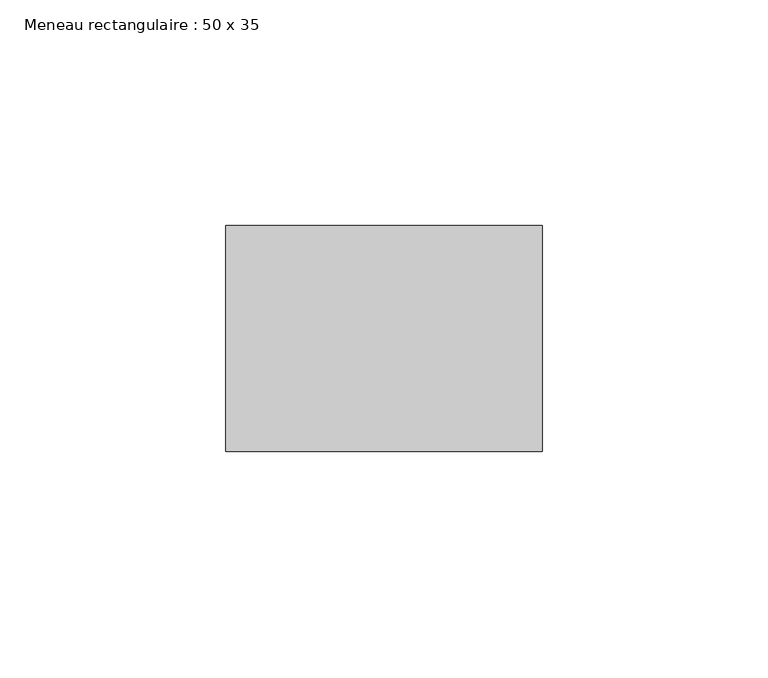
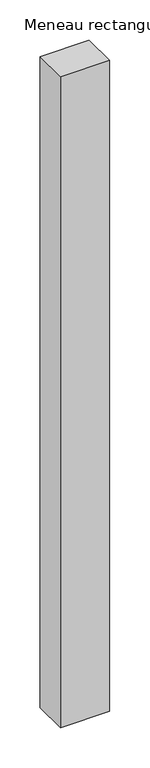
"""IFC4 building model written with IfcOpenShell, lengths in millimetres: member geometry, Meneau rectangulaire : 50 x 35."""

from ifc_helpers import new_model, si_unit, frame, origin, place, context, project, spatial, polyline, outline, extrude, source, transform, mapped, element, save


def meneau_rectangulaire_50_x_35_15d3fec9(model_context):
    return source(origin(), model_context, "Body", "SweptSolid", [
        extrude(outline(polyline([(35.0, 0.0), (35.0, -50.0), (-35.0, -50.0), (-35.0, 0.0), (35.0, 0.0)])), frame((0.0, 0.0, -983.2660599), z_axis=(0.0, 0.0, 1.0), x_axis=(1.0, 0.0, 0.0)), (0.0, 0.0, 1.0), 983.2660599),
    ])


if __name__ == "__main__":
    model = new_model("IFC4")
    model_context = context("Model", 3, world=origin())
    ifc_project = project(units=[si_unit("LENGTHUNIT", "METRE", prefix="MILLI")], contexts=[model_context])
    site = spatial("IfcSite", under=ifc_project)
    building = spatial("IfcBuilding", under=site)
    placement = place(None, origin())
    meneau_rectangulaire_50_x_35_shape = meneau_rectangulaire_50_x_35_15d3fec9(model_context)
    element("IfcMember", 1, ObjectType="Meneau rectangulaire : 50 x 35", at=placement, inside=building, context=model_context, shape_type="MappedRepresentation", body=[
        mapped(meneau_rectangulaire_50_x_35_shape, transform((0.0, 0.0, 0.0), x_axis=(1.0, 0.0, 0.0), y_axis=(0.0, 1.0, 0.0), z_axis=(0.0, 0.0, 1.0))),
    ])
    save(model, "model.ifc")
